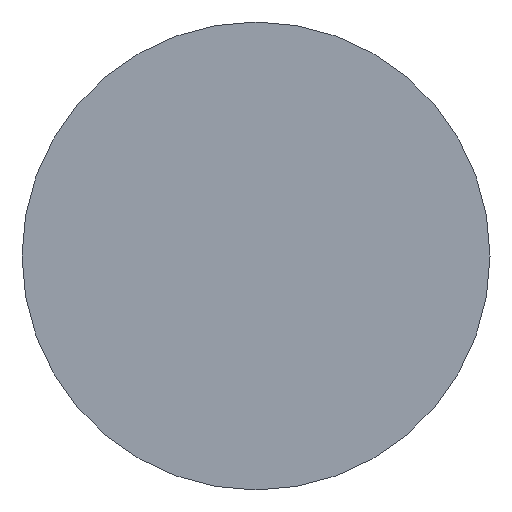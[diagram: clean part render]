
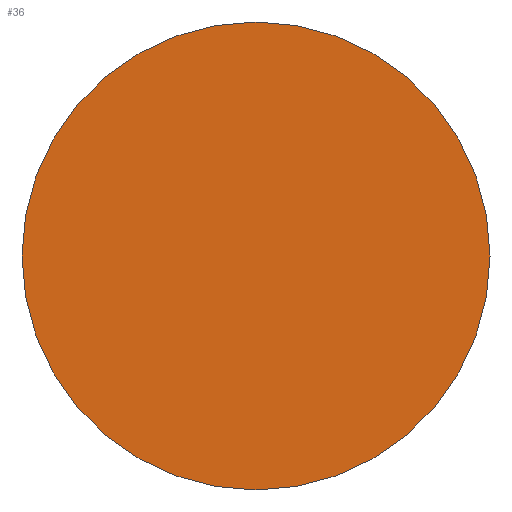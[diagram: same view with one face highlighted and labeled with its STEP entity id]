
A CAD part, left-side view. The second image highlights one B-rep face of the part: STEP entity #36.
In plain terms, the highlighted planar face has unit normal (-1, 0, 0).
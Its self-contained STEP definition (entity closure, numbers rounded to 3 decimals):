
#29=PLANE('',#186);
#36=ADVANCED_FACE('',(#46),#29,.T.);
#46=FACE_OUTER_BOUND('',#56,.F.);
#56=EDGE_LOOP('',(#77,#78));
#77=ORIENTED_EDGE('',*,*,#139,.F.);
#78=ORIENTED_EDGE('',*,*,#127,.F.);
#127=EDGE_CURVE('',#168,#167,#145,.T.);
#139=EDGE_CURVE('',#167,#168,#151,.T.);
#145=CIRCLE('',#171,6.);
#151=CIRCLE('',#177,6.);
#167=VERTEX_POINT('',#259);
#168=VERTEX_POINT('',#260);
#171=AXIS2_PLACEMENT_3D('',#261,#196,#197);
#177=AXIS2_PLACEMENT_3D('',#273,#214,#215);
#186=AXIS2_PLACEMENT_3D('',#282,#232,#233);
#196=DIRECTION('',(-1.,0.,0.));
#197=DIRECTION('',(0.,1.,0.));
#214=DIRECTION('',(-1.,0.,0.));
#215=DIRECTION('',(0.,-1.,0.));
#232=DIRECTION('',(-1.,0.,0.));
#233=DIRECTION('',(0.,0.,1.));
#259=CARTESIAN_POINT('',(731.677,443.678,-661.227));
#260=CARTESIAN_POINT('',(731.677,455.678,-661.227));
#261=CARTESIAN_POINT('',(731.677,449.678,-661.227));
#273=CARTESIAN_POINT('',(731.677,449.678,-661.227));
#282=CARTESIAN_POINT('',(731.677,443.558,-667.347));
